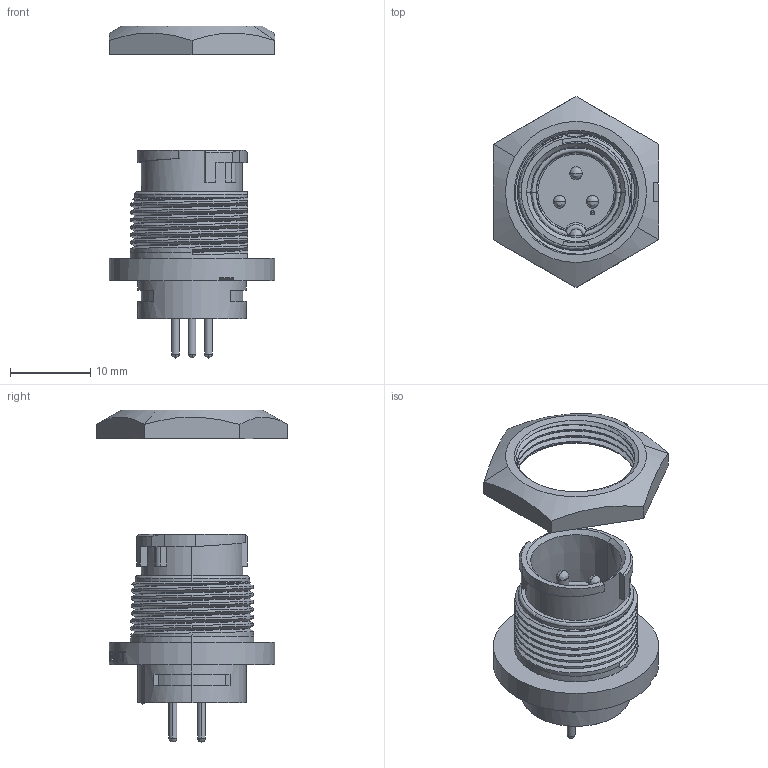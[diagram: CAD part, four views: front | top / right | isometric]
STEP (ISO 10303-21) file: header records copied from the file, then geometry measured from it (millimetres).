
FILE_DESCRIPTION (( 'STEP AP214' ), '1' );
FILE_NAME ('EN3P3M16PXA.STEP', '2014-07-03T18:10:05', ( '' ), ( '' ), 'SwSTEP 2.0', 'SolidWorks 2014', '' );
FILE_SCHEMA (( 'AUTOMOTIVE_DESIGN' ));
Length unit declared in the file: inch
Products named in the file (1): EN3P3M16PXA
Bounding box: 20.64 x 23.83 x 41.38 mm (x, y, z)
Volume: 3483.8 mm3; surface area: 3201.3 mm2
Topology: 2 solids, 2 shells, 408 faces, 1124 edges, 726 vertices
Faces by surface type: plane 136, bspline 133, cylinder 100, cone 29, torus 10
Entity records: 30014 total; most frequent: CARTESIAN_POINT 20748, ORIENTED_EDGE 2208, DIRECTION 1540, EDGE_CURVE 1104, VERTEX_POINT 726, AXIS2_PLACEMENT_3D 539, VECTOR 462, LINE 462
